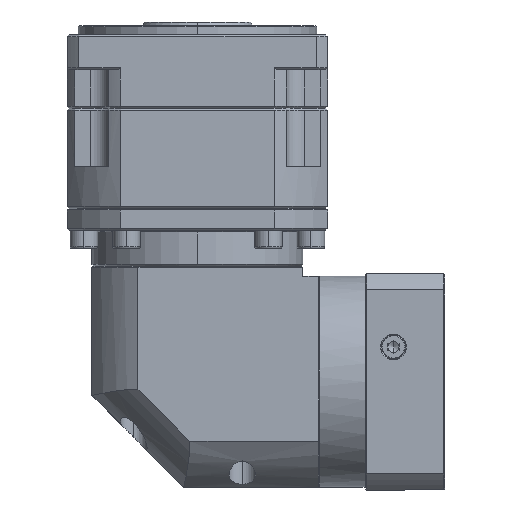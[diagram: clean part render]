
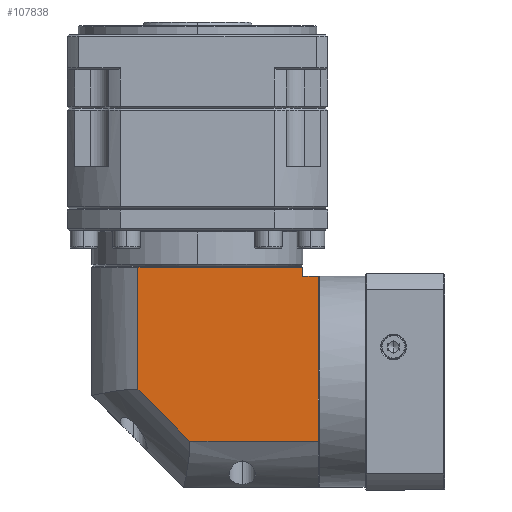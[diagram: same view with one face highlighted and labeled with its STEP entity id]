
A CAD part, left-side view. The second image highlights one B-rep face of the part: STEP entity #107838.
In plain terms, the highlighted planar face has unit normal (-1, 0, 0).
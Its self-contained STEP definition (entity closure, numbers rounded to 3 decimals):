
#804 = ORIENTED_EDGE ( 'NONE', *, *, #102080, .T. ) ;
#2595 = LINE ( 'NONE', #49541, #77280 ) ;
#3374 = PLANE ( 'NONE',  #111435 ) ;
#4264 = CARTESIAN_POINT ( 'NONE',  ( -239.831, -3.863, 34.757 ) ) ;
#7407 = EDGE_CURVE ( 'NONE', #60014, #120100, #2595, .T. ) ;
#9223 = VERTEX_POINT ( 'NONE', #119303 ) ;
#10115 = EDGE_CURVE ( 'NONE', #135600, #161509, #26942, .T. ) ;
#14330 = DIRECTION ( 'NONE',  ( 0., -1., 0. ) ) ;
#15380 = LINE ( 'NONE', #96618, #36909 ) ;
#17072 = ORIENTED_EDGE ( 'NONE', *, *, #66814, .F. ) ;
#17738 = DIRECTION ( 'NONE',  ( 0., 1., 0. ) ) ;
#26942 = LINE ( 'NONE', #32184, #139948 ) ;
#29635 = LINE ( 'NONE', #117171, #159762 ) ;
#32184 = CARTESIAN_POINT ( 'NONE',  ( -239.831, -102.163, 107.819 ) ) ;
#34618 = CARTESIAN_POINT ( 'NONE',  ( -239.831, -93.763, 96.319 ) ) ;
#36909 = VECTOR ( 'NONE', #14330, 1000. ) ;
#45054 = CARTESIAN_POINT ( 'NONE',  ( -239.831, -93.763, 96.319 ) ) ;
#48816 = VECTOR ( 'NONE', #131618, 1000. ) ;
#49541 = CARTESIAN_POINT ( 'NONE',  ( -239.831, -32.201, 6.419 ) ) ;
#50266 = ORIENTED_EDGE ( 'NONE', *, *, #136886, .F. ) ;
#60014 = VERTEX_POINT ( 'NONE', #133644 ) ;
#61580 = LINE ( 'NONE', #104223, #48816 ) ;
#62156 = FACE_OUTER_BOUND ( 'NONE', #75670, .T. ) ;
#66814 = EDGE_CURVE ( 'NONE', #161509, #60014, #165575, .T. ) ;
#66852 = ORIENTED_EDGE ( 'NONE', *, *, #7407, .F. ) ;
#67166 = DIRECTION ( 'NONE',  ( 0., 1., 0. ) ) ;
#71655 = VERTEX_POINT ( 'NONE', #106643 ) ;
#72112 = DIRECTION ( 'NONE',  ( 0., 0., -1. ) ) ;
#75272 = EDGE_CURVE ( 'NONE', #71655, #9223, #15380, .T. ) ;
#75670 = EDGE_LOOP ( 'NONE', ( #50266, #66852, #17072, #109177, #804, #161746, #85376 ) ) ;
#76951 = DIRECTION ( 'NONE',  ( 0., 0.707, 0.707 ) ) ;
#77280 = VECTOR ( 'NONE', #76951, 1000. ) ;
#77360 = DIRECTION ( 'NONE',  ( 0., 0., 1. ) ) ;
#85376 = ORIENTED_EDGE ( 'NONE', *, *, #75272, .F. ) ;
#86308 = CARTESIAN_POINT ( 'NONE',  ( -239.831, 21.237, 107.819 ) ) ;
#94680 = CARTESIAN_POINT ( 'NONE',  ( -239.831, -102.163, 6.419 ) ) ;
#96016 = DIRECTION ( 'NONE',  ( 0., 1., 0. ) ) ;
#96618 = CARTESIAN_POINT ( 'NONE',  ( -239.831, 21.237, 101.319 ) ) ;
#99950 = DIRECTION ( 'NONE',  ( 1., 0., 0. ) ) ;
#100032 = VECTOR ( 'NONE', #67166, 1000. ) ;
#102080 = EDGE_CURVE ( 'NONE', #135600, #148901, #136283, .T. ) ;
#104223 = CARTESIAN_POINT ( 'NONE',  ( -239.831, -93.763, -18.681 ) ) ;
#106643 = CARTESIAN_POINT ( 'NONE',  ( -239.831, -3.863, 101.319 ) ) ;
#107838 = ADVANCED_FACE ( 'NONE', ( #62156 ), #3374, .F. ) ;
#109177 = ORIENTED_EDGE ( 'NONE', *, *, #10115, .F. ) ;
#111435 = AXIS2_PLACEMENT_3D ( 'NONE', #86308, #99950, #17738 ) ;
#117171 = CARTESIAN_POINT ( 'NONE',  ( -239.831, -3.863, 107.819 ) ) ;
#117443 = EDGE_CURVE ( 'NONE', #148901, #9223, #61580, .T. ) ;
#119303 = CARTESIAN_POINT ( 'NONE',  ( -239.831, -93.763, 101.319 ) ) ;
#120100 = VERTEX_POINT ( 'NONE', #4264 ) ;
#131618 = DIRECTION ( 'NONE',  ( 0., 0., 1. ) ) ;
#133644 = CARTESIAN_POINT ( 'NONE',  ( -239.831, -32.201, 6.419 ) ) ;
#135600 = VERTEX_POINT ( 'NONE', #171867 ) ;
#136283 = LINE ( 'NONE', #45054, #100032 ) ;
#136886 = EDGE_CURVE ( 'NONE', #120100, #71655, #29635, .T. ) ;
#139948 = VECTOR ( 'NONE', #72112, 1000. ) ;
#148901 = VERTEX_POINT ( 'NONE', #34618 ) ;
#159762 = VECTOR ( 'NONE', #77360, 1000. ) ;
#161509 = VERTEX_POINT ( 'NONE', #94680 ) ;
#161746 = ORIENTED_EDGE ( 'NONE', *, *, #117443, .T. ) ;
#163440 = CARTESIAN_POINT ( 'NONE',  ( -239.831, 21.237, 6.419 ) ) ;
#165575 = LINE ( 'NONE', #163440, #171897 ) ;
#171867 = CARTESIAN_POINT ( 'NONE',  ( -239.831, -102.163, 96.319 ) ) ;
#171897 = VECTOR ( 'NONE', #96016, 1000. ) ;
